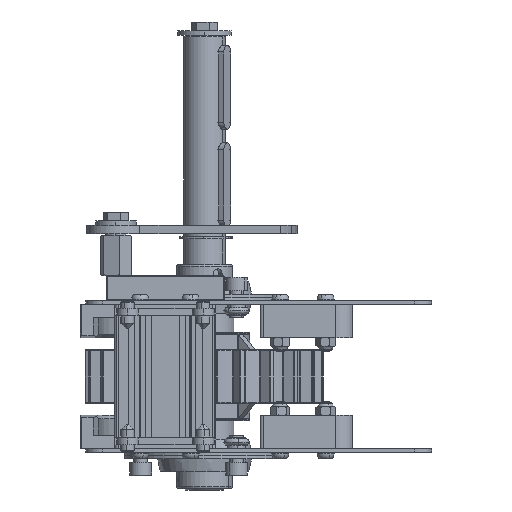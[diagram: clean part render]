
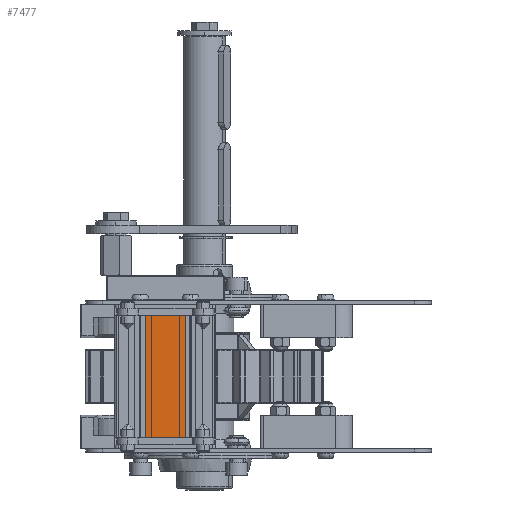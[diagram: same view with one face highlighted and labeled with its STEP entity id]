
A CAD part, left-side view. The second image highlights one B-rep face of the part: STEP entity #7477.
In plain terms, the highlighted planar face has unit normal (-1, 0, 0) as drawn and (0, 0, -1) by its records, which use the part's own axes.
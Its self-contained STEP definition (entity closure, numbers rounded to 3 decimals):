
#22 = CARTESIAN_POINT ( 'NONE',  ( 36.5, -26.85, -15. ) ) ;
#538 = VECTOR ( 'NONE', #67399, 1000. ) ;
#4321 = VERTEX_POINT ( 'NONE', #19203 ) ;
#5005 = CARTESIAN_POINT ( 'NONE',  ( -36.5, -26.85, -15. ) ) ;
#5316 = VECTOR ( 'NONE', #65207, 1000. ) ;
#5388 = FACE_OUTER_BOUND ( 'NONE', #30007, .T. ) ;
#6065 = PLANE ( 'NONE',  #55172 ) ;
#7477 = ADVANCED_FACE ( 'NONE', ( #5388 ), #6065, .F. ) ;
#7897 = EDGE_CURVE ( 'NONE', #4321, #47177, #69669, .T. ) ;
#9562 = CARTESIAN_POINT ( 'NONE',  ( 36.5, -26.85, -15. ) ) ;
#12171 = DIRECTION ( 'NONE',  ( 0., -1., 0. ) ) ;
#17390 = DIRECTION ( 'NONE',  ( 0., 1., 0. ) ) ;
#17447 = VECTOR ( 'NONE', #21695, 1000. ) ;
#18981 = CARTESIAN_POINT ( 'NONE',  ( 36.5, -26.85, -15. ) ) ;
#19203 = CARTESIAN_POINT ( 'NONE',  ( 36.5, -3.15, -15. ) ) ;
#21217 = ORIENTED_EDGE ( 'NONE', *, *, #33429, .F. ) ;
#21695 = DIRECTION ( 'NONE',  ( -1., 0., 0. ) ) ;
#22084 = ORIENTED_EDGE ( 'NONE', *, *, #7897, .F. ) ;
#23482 = CARTESIAN_POINT ( 'NONE',  ( 36.5, -26.85, -15. ) ) ;
#30007 = EDGE_LOOP ( 'NONE', ( #64996, #22084, #21217, #56062 ) ) ;
#30510 = VERTEX_POINT ( 'NONE', #78042 ) ;
#33429 = EDGE_CURVE ( 'NONE', #72269, #4321, #68641, .T. ) ;
#47177 = VERTEX_POINT ( 'NONE', #48098 ) ;
#48098 = CARTESIAN_POINT ( 'NONE',  ( -36.5, -3.15, -15. ) ) ;
#48433 = DIRECTION ( 'NONE',  ( 0., 0., 1. ) ) ;
#49837 = EDGE_CURVE ( 'NONE', #72269, #30510, #65706, .T. ) ;
#55172 = AXIS2_PLACEMENT_3D ( 'NONE', #22, #48433, #12171 ) ;
#56062 = ORIENTED_EDGE ( 'NONE', *, *, #49837, .T. ) ;
#64996 = ORIENTED_EDGE ( 'NONE', *, *, #65888, .T. ) ;
#65207 = DIRECTION ( 'NONE',  ( -1., 0., 0. ) ) ;
#65706 = LINE ( 'NONE', #9562, #17447 ) ;
#65888 = EDGE_CURVE ( 'NONE', #30510, #47177, #75715, .T. ) ;
#67399 = DIRECTION ( 'NONE',  ( 0., 1., 0. ) ) ;
#68641 = LINE ( 'NONE', #18981, #538 ) ;
#69669 = LINE ( 'NONE', #71080, #5316 ) ;
#71080 = CARTESIAN_POINT ( 'NONE',  ( 36.5, -3.15, -15. ) ) ;
#72269 = VERTEX_POINT ( 'NONE', #23482 ) ;
#73800 = VECTOR ( 'NONE', #17390, 1000. ) ;
#75715 = LINE ( 'NONE', #5005, #73800 ) ;
#78042 = CARTESIAN_POINT ( 'NONE',  ( -36.5, -26.85, -15. ) ) ;
